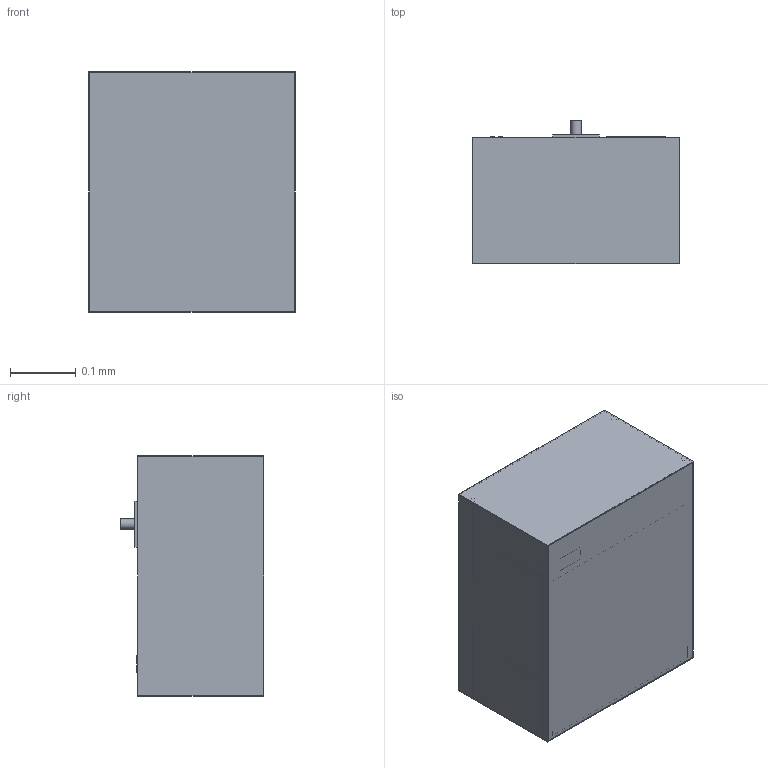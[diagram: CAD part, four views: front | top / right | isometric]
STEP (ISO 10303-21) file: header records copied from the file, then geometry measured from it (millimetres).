
FILE_DESCRIPTION(('Open CASCADE Model'),'2;1');
FILE_NAME('Open CASCADE Shape Model','2026-10-04T13:16:57',('Author'),( 'Open CASCADE'),'Open CASCADE STEP processor 7.9','Open CASCADE 7.9' ,'Unknown');
FILE_SCHEMA(('AUTOMOTIVE_DESIGN { 1 0 10303 214 1 1 1 1 }'));
Length unit declared in the file: millimetre
Products named in the file (151): MOD-tumour-spheroids; fluid__HEPES_medium_102_mL; fluid__HEPES_medium_port; fluid__wash_buffer_102_mL; fluid__wash_buffer_port; fluid__vehicle_102_mL; fluid__vehicle_port; fluid__drug_doses_1_102_mL; fluid__drug_doses_1_port; fluid__drug_doses_2_102_mL; fluid__drug_doses_2_port; fluid__paraformaldehyde_102_mL; fluid__paraformaldehyde_port; fluid__RNA_stabiliser_102_mL; fluid__RNA_stabiliser_port; fluid__waste_bag_empty_at_launch_204_mL_capacity_under_the_reagent_
bags; fluid__waste_bag_port; sample__m80_C_passive_cryo_cassette_vacuum_insulated_body; sample__cryo_cassette_cap; pump__fluid_manifold; pump__micro_pump_1; pump__micro_pump_2; pump__valve_1; pump__valve_2; pump__valve_3; pump__valve_4; pump__manifold_inlet; pump__manifold_outlet; imaging__microscope_base_optics_filter_cubes_camera; imaging__objective; imaging__stage_post_1; imaging__stage_post_2; imaging__stage_post_3; imaging__stage_post_4; imaging__XY_stage_frame_travel_96_5_x_57_9_mm_every_well_over_the_
objective; imaging__stage_carriage; imaging__X_stepper; imaging__Y_stepper; imaging__illumination_column; imaging__illumination_arm ...
Assembly tree (150 placements, depth 2):
  MOD-tumour-spheroids
    fluid__HEPES_medium_102_mL
    fluid__HEPES_medium_port
    fluid__wash_buffer_102_mL
    fluid__wash_buffer_port
    fluid__vehicle_102_mL
    fluid__vehicle_port
    fluid__drug_doses_1_102_mL
    fluid__drug_doses_1_port
    fluid__drug_doses_2_102_mL
    fluid__drug_doses_2_port
    fluid__paraformaldehyde_102_mL
    fluid__paraformaldehyde_port
    fluid__RNA_stabiliser_102_mL
    fluid__RNA_stabiliser_port
    fluid__waste_bag_empty_at_launch_204_mL_capacity_under_the_reagent_
bags
    fluid__waste_bag_port
    sample__m80_C_passive_cryo_cassette_vacuum_insulated_body
    sample__cryo_cassette_cap
    pump__fluid_manifold
    pump__micro_pump_1
    pump__micro_pump_2
    pump__valve_1
    pump__valve_2
    pump__valve_3
    pump__valve_4
    pump__manifold_inlet
    pump__manifold_outlet
    imaging__microscope_base_optics_filter_cubes_camera
    imaging__objective
    imaging__stage_post_1
    imaging__stage_post_2
    imaging__stage_post_3
    imaging__stage_post_4
    imaging__XY_stage_frame_travel_96_5_x_57_9_mm_every_well_over_the_
objective
    imaging__stage_carriage
    imaging__X_stepper
    imaging__Y_stepper
    imaging__illumination_column
    imaging__illumination_arm
    imaging__arm_to_head
    imaging__LED_head_transmitted_light
    sample__cassette_24_wells_SBS_footprint_19_3_mm_pitch
    sample__culture_in_the_wells
    sample__cassette_lid_sealed_and_gas_permeable
    sample__cassette_fluid_port_1
    sample__cassette_fluid_port_2
    electronics__controller_enclosure_boards_data_storage
    electronics__connector_1
    electronics__connector_2
    sensor__sensor_pack
    sensor__sensor_pack_head_1
    sensor__sensor_pack_head_2
    housing__bottom_panel
    housing__top_panel
    housing__side_panel_L
    housing__side_panel_R
    housing__back_panel_bay_interface
    housing__front_panel
    housing__corner_post_1
Bounding box: 0.31 x 0.22 x 0.37 mm (x, y, z)
Volume: 0 mm3; surface area: 2 mm2
Topology: 174 solids, 174 shells, 721 faces, 1047 edges, 698 vertices
Faces by surface type: plane 528, cylinder 193
Full cylindrical faces by diameter (mm): 0.003 x62, 0.005 x28, 0.006 x4, 0.008 x2, 0.009 x4, 0.01 x4, 0.012 x2, 0.015 x24, 0.016 x25, 0.02 x2, 0.022 x1, 0.028 x1, 0.078 x1, 0.08 x1
Entity records: 33095 total; most frequent: DIRECTION 5239, CARTESIAN_POINT 4903, LINE 2369, VECTOR 2369, ORIENTED_EDGE 2094, PCURVE 2094, DEFINITIONAL_REPRESENTATION 2094, AXIS2_PLACEMENT_3D 1258
